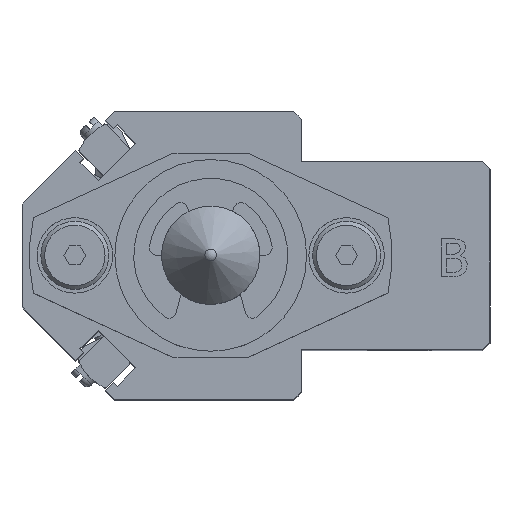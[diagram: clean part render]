
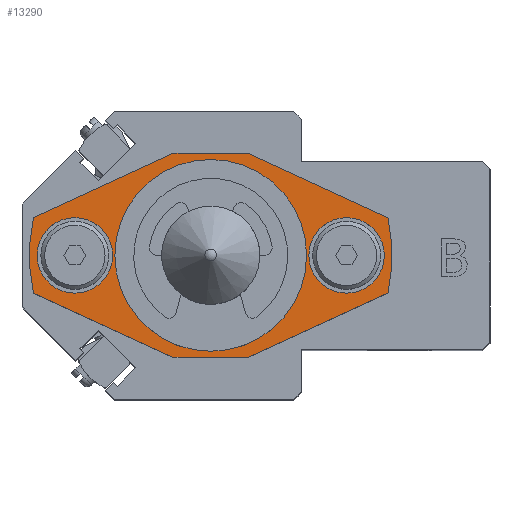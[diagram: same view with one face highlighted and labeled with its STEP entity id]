
A CAD part, top view. The second image highlights one B-rep face of the part: STEP entity #13290.
In plain terms, the highlighted planar face has unit normal (0, 0, 1).
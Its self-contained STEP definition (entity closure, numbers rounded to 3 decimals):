
#373=FACE_BOUND('',#4840,.T.);
#374=FACE_BOUND('',#4841,.T.);
#375=FACE_BOUND('',#4842,.T.);
#1553=LINE('',#21760,#2945);
#1560=LINE('',#21777,#2952);
#1561=LINE('',#21780,#2953);
#1562=LINE('',#21781,#2954);
#1563=LINE('',#21783,#2955);
#1564=LINE('',#21784,#2956);
#2945=VECTOR('',#17672,10.);
#2952=VECTOR('',#17687,10.);
#2953=VECTOR('',#17690,10.);
#2954=VECTOR('',#17691,10.);
#2955=VECTOR('',#17692,10.);
#2956=VECTOR('',#17693,10.);
#3437=CIRCLE('',#14566,10.5);
#3438=CIRCLE('',#14567,10.5);
#3445=CIRCLE('',#14578,24.);
#3447=CIRCLE('',#14581,24.);
#3450=CIRCLE('',#14588,5.);
#3451=CIRCLE('',#14589,5.);
#3452=CIRCLE('',#14590,5.);
#3453=CIRCLE('',#14591,5.);
#4134=FACE_OUTER_BOUND('',#4839,.T.);
#4839=EDGE_LOOP('',(#11140,#11141,#11142,#11143,#11144,#11145,#11146,#11147));
#4840=EDGE_LOOP('',(#11148,#11149));
#4841=EDGE_LOOP('',(#11150,#11151));
#4842=EDGE_LOOP('',(#11152,#11153));
#6043=VERTEX_POINT('',#21718);
#6044=VERTEX_POINT('',#21720);
#6052=VERTEX_POINT('',#21741);
#6053=VERTEX_POINT('',#21743);
#6056=VERTEX_POINT('',#21750);
#6057=VERTEX_POINT('',#21752);
#6059=VERTEX_POINT('',#21758);
#6065=VERTEX_POINT('',#21775);
#6066=VERTEX_POINT('',#21779);
#6067=VERTEX_POINT('',#21782);
#6068=VERTEX_POINT('',#21785);
#6069=VERTEX_POINT('',#21786);
#6070=VERTEX_POINT('',#21789);
#6071=VERTEX_POINT('',#21790);
#7798=EDGE_CURVE('',#6044,#6043,#3437,.T.);
#7799=EDGE_CURVE('',#6043,#6044,#3438,.T.);
#7808=EDGE_CURVE('',#6053,#6052,#3445,.T.);
#7812=EDGE_CURVE('',#6057,#6056,#3447,.T.);
#7816=EDGE_CURVE('',#6052,#6059,#1553,.T.);
#7825=EDGE_CURVE('',#6056,#6065,#1560,.T.);
#7826=EDGE_CURVE('',#6059,#6066,#1561,.T.);
#7827=EDGE_CURVE('',#6066,#6057,#1562,.T.);
#7828=EDGE_CURVE('',#6065,#6067,#1563,.T.);
#7829=EDGE_CURVE('',#6067,#6053,#1564,.T.);
#7830=EDGE_CURVE('',#6068,#6069,#3450,.T.);
#7831=EDGE_CURVE('',#6069,#6068,#3451,.T.);
#7832=EDGE_CURVE('',#6070,#6071,#3452,.T.);
#7833=EDGE_CURVE('',#6071,#6070,#3453,.T.);
#11140=ORIENTED_EDGE('',*,*,#7808,.T.);
#11141=ORIENTED_EDGE('',*,*,#7816,.T.);
#11142=ORIENTED_EDGE('',*,*,#7826,.T.);
#11143=ORIENTED_EDGE('',*,*,#7827,.T.);
#11144=ORIENTED_EDGE('',*,*,#7812,.T.);
#11145=ORIENTED_EDGE('',*,*,#7825,.T.);
#11146=ORIENTED_EDGE('',*,*,#7828,.T.);
#11147=ORIENTED_EDGE('',*,*,#7829,.T.);
#11148=ORIENTED_EDGE('',*,*,#7798,.T.);
#11149=ORIENTED_EDGE('',*,*,#7799,.T.);
#11150=ORIENTED_EDGE('',*,*,#7830,.T.);
#11151=ORIENTED_EDGE('',*,*,#7831,.T.);
#11152=ORIENTED_EDGE('',*,*,#7832,.T.);
#11153=ORIENTED_EDGE('',*,*,#7833,.T.);
#12487=PLANE('',#14587);
#13290=ADVANCED_FACE('',(#4134,#373,#374,#375),#12487,.T.);
#14566=AXIS2_PLACEMENT_3D('',#21721,#17631,#17632);
#14567=AXIS2_PLACEMENT_3D('',#21722,#17633,#17634);
#14578=AXIS2_PLACEMENT_3D('',#21744,#17657,#17658);
#14581=AXIS2_PLACEMENT_3D('',#21753,#17665,#17666);
#14587=AXIS2_PLACEMENT_3D('',#21778,#17688,#17689);
#14588=AXIS2_PLACEMENT_3D('',#21787,#17694,#17695);
#14589=AXIS2_PLACEMENT_3D('',#21788,#17696,#17697);
#14590=AXIS2_PLACEMENT_3D('',#21791,#17698,#17699);
#14591=AXIS2_PLACEMENT_3D('',#21792,#17700,#17701);
#17631=DIRECTION('center_axis',(0.,0.,-1.));
#17632=DIRECTION('ref_axis',(1.,0.,0.));
#17633=DIRECTION('center_axis',(0.,0.,-1.));
#17634=DIRECTION('ref_axis',(1.,0.,0.));
#17657=DIRECTION('center_axis',(0.,0.,1.));
#17658=DIRECTION('ref_axis',(0.978,-0.208,0.));
#17665=DIRECTION('center_axis',(0.,0.,1.));
#17666=DIRECTION('ref_axis',(-0.978,0.208,0.));
#17672=DIRECTION('',(0.908,-0.418,0.));
#17687=DIRECTION('',(-0.908,0.418,0.));
#17688=DIRECTION('center_axis',(0.,0.,1.));
#17689=DIRECTION('ref_axis',(1.,0.,0.));
#17690=DIRECTION('',(1.,0.,0.));
#17691=DIRECTION('',(0.908,0.418,0.));
#17692=DIRECTION('',(-1.,0.,0.));
#17693=DIRECTION('',(-0.908,-0.418,0.));
#17694=DIRECTION('center_axis',(0.,0.,-1.));
#17695=DIRECTION('ref_axis',(1.,0.,0.));
#17696=DIRECTION('center_axis',(0.,0.,-1.));
#17697=DIRECTION('ref_axis',(1.,0.,0.));
#17698=DIRECTION('center_axis',(0.,0.,-1.));
#17699=DIRECTION('ref_axis',(1.,0.,0.));
#17700=DIRECTION('center_axis',(0.,0.,-1.));
#17701=DIRECTION('ref_axis',(1.,0.,0.));
#21718=CARTESIAN_POINT('',(-10.5,0.,6.));
#21720=CARTESIAN_POINT('',(10.5,0.,6.));
#21721=CARTESIAN_POINT('Origin',(0.,0.,6.));
#21722=CARTESIAN_POINT('Origin',(0.,0.,6.));
#21741=CARTESIAN_POINT('',(-23.473,-5.001,6.));
#21743=CARTESIAN_POINT('',(-23.473,5.001,6.));
#21744=CARTESIAN_POINT('Origin',(0.,0.,6.));
#21750=CARTESIAN_POINT('',(23.473,5.001,6.));
#21752=CARTESIAN_POINT('',(23.473,-5.001,6.));
#21753=CARTESIAN_POINT('Origin',(0.,0.,6.));
#21758=CARTESIAN_POINT('',(-5.,-13.5,6.));
#21760=CARTESIAN_POINT('',(-15.7,-8.578,6.));
#21775=CARTESIAN_POINT('',(5.,13.5,6.));
#21777=CARTESIAN_POINT('',(15.7,8.578,6.));
#21778=CARTESIAN_POINT('Origin',(0.,0.,6.));
#21779=CARTESIAN_POINT('',(5.,-13.5,6.));
#21780=CARTESIAN_POINT('',(25.4,-13.5,6.));
#21781=CARTESIAN_POINT('',(15.7,-8.578,6.));
#21782=CARTESIAN_POINT('',(-5.,13.5,6.));
#21783=CARTESIAN_POINT('',(-25.4,13.5,6.));
#21784=CARTESIAN_POINT('',(-15.7,8.578,6.));
#21785=CARTESIAN_POINT('',(-13.,0.,6.));
#21786=CARTESIAN_POINT('',(-23.,0.,6.));
#21787=CARTESIAN_POINT('Origin',(-18.,0.,6.));
#21788=CARTESIAN_POINT('Origin',(-18.,0.,6.));
#21789=CARTESIAN_POINT('',(23.,0.,6.));
#21790=CARTESIAN_POINT('',(13.,0.,6.));
#21791=CARTESIAN_POINT('Origin',(18.,0.,6.));
#21792=CARTESIAN_POINT('Origin',(18.,0.,6.));
